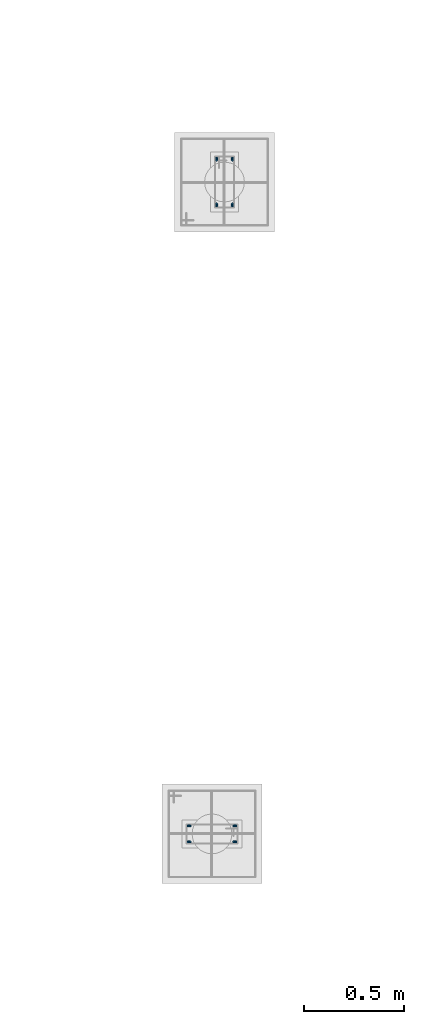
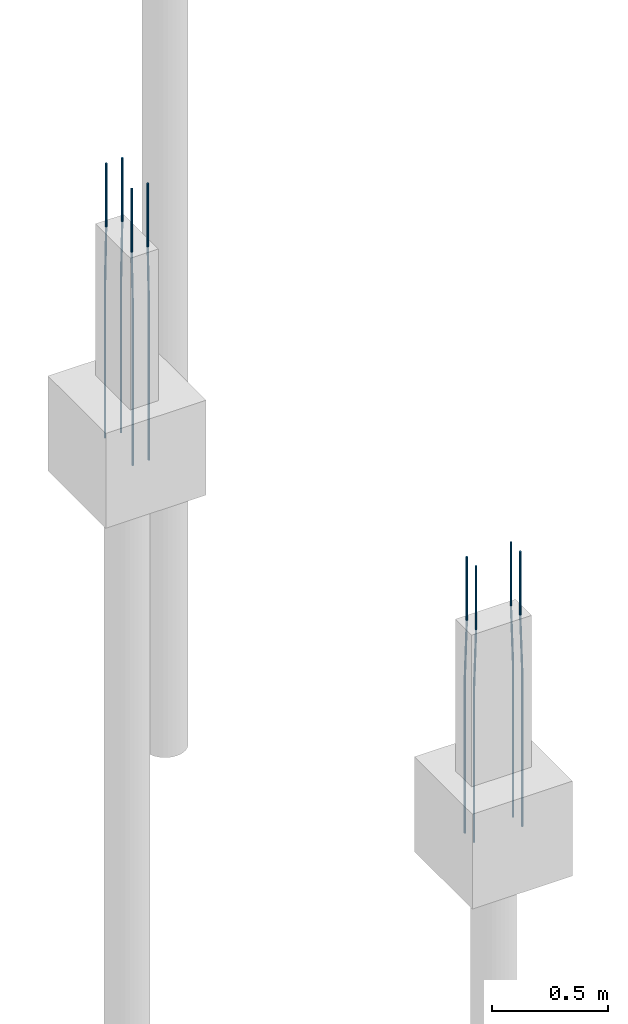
# One storey, part 24 of 119: 8 reinforcing bars.
"""IFC4 building model written with IfcOpenShell, lengths in centimetres."""

from ifc_helpers import new_model, entity, si_unit, derived_unit, frame, origin_with_axes, place, context, project, spatial, element, save


model = new_model("IFC4")

# Units and contexts
model_context = context("Model", 3, precision=1e-05, world=origin_with_axes(), identifier="Body")
ifc_project = project(units=[si_unit("LENGTHUNIT", "METRE", prefix="CENTI"), si_unit("VOLUMEUNIT", "CUBIC_METRE"), si_unit("AREAUNIT", "SQUARE_METRE"), si_unit("POWERUNIT", "WATT"), si_unit("LUMINOUSFLUXUNIT", "LUMEN"), si_unit("ELECTRICCURRENTUNIT", "AMPERE"), si_unit("PRESSUREUNIT", "PASCAL", prefix="KILO"), si_unit("MASSUNIT", "GRAM", prefix="KILO"), si_unit("PLANEANGLEUNIT", "RADIAN"), derived_unit("VOLUMETRICFLOWRATEUNIT", [(si_unit("LENGTHUNIT", "METRE"), 3), (si_unit("TIMEUNIT", "SECOND"), -1)])], contexts=[model_context])

# Site, building, storey
site_placement = place(None, frame((-4000.0, 0.0, 0.0), z_axis=(0.0, 0.0, 1.0), x_axis=(1.0, 0.0, 0.0)))
site = spatial("IfcSite", under=ifc_project, at=site_placement, Name="PADRÃO")
building_placement = place(site_placement, frame((0.0, 0.0, -14.0)))
building = spatial("IfcBuilding", under=site, at=building_placement, Name="CRECHE PRÉ-ESCOLA TIPO 2")
storey_placement = place(building_placement, origin_with_axes())
storey = spatial("IfcBuildingStorey", under=building, at=storey_placement, Name="FUNDAÇÃO", CompositionType="ELEMENT", Elevation=-14.0)

# Reinforcing bars
for number, where, z_axis, x_axis, name in (
    (1, (1112.0, 2261.5, 33.3573001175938), (0.0, 0.0, 1.0), (1.0, 0.0, 0.0), "P79 - Longitudinal"),
    (2, (1120.0, 2261.5, 33.3573001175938), (0.0, 0.0, 1.0), (1.0, 0.0, 0.0), "P79 - Longitudinal"),
):
    element("IfcReinforcingBar", number, at=place(storey_placement, frame(where, z_axis=z_axis, x_axis=x_axis)), inside=storey, Name=name, BarLength=0.0, CrossSectionArea=7.853981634e-05, NominalDiameter=1.0, PredefinedType="MAIN", context=model_context, shape_type="AdvancedSweptSolid", body=[
        entity("IfcSweptDiskSolid", entity("IfcCompositeCurve", [entity("IfcCompositeCurveSegment", "CONTINUOUS", True, entity("IfcPolyline", [entity("IfcCartesianPoint", [0.0, 0.5, -145.357300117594]), entity("IfcCartesianPoint", [0.0, 0.5, -63.3573001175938])])), entity("IfcCompositeCurveSegment", "CONTINUOUS", True, entity("IfcPolyline", [entity("IfcCartesianPoint", [0.0, 0.5, -63.3573001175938]), entity("IfcCartesianPoint", [0.0, -0.5, -33.3573001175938])])), entity("IfcCompositeCurveSegment", "CONTINUOUS", True, entity("IfcPolyline", [entity("IfcCartesianPoint", [0.0, -0.5, -33.3573001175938]), entity("IfcCartesianPoint", [0.0, -0.5, 0.0])]))], False), 0.5),
    ])
for number, where, z_axis, x_axis, name in (
    (3, (1120.0, 2238.5, 33.3573001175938), (0.0, 0.0, 1.0), (1.0, 0.0, 0.0), "P79 - Longitudinal"),
    (4, (1112.0, 2238.5, 33.3573001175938), (0.0, 0.0, 1.0), (1.0, 0.0, 0.0), "P79 - Longitudinal"),
):
    element("IfcReinforcingBar", number, at=place(storey_placement, frame(where, z_axis=z_axis, x_axis=x_axis)), inside=storey, Name=name, BarLength=0.0, CrossSectionArea=7.853981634e-05, NominalDiameter=1.0, PredefinedType="MAIN", context=model_context, shape_type="AdvancedSweptSolid", body=[
        entity("IfcSweptDiskSolid", entity("IfcCompositeCurve", [entity("IfcCompositeCurveSegment", "CONTINUOUS", True, entity("IfcPolyline", [entity("IfcCartesianPoint", [0.0, -0.5, -145.357300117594]), entity("IfcCartesianPoint", [0.0, -0.5, -63.3573001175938])])), entity("IfcCompositeCurveSegment", "CONTINUOUS", True, entity("IfcPolyline", [entity("IfcCartesianPoint", [0.0, -0.5, -63.3573001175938]), entity("IfcCartesianPoint", [0.0, 0.5, -33.3573001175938])])), entity("IfcCompositeCurveSegment", "CONTINUOUS", True, entity("IfcPolyline", [entity("IfcCartesianPoint", [0.0, 0.5, -33.3573001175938]), entity("IfcCartesianPoint", [0.0, 0.5, 0.0])]))], False), 0.5),
    ])
for number, where, z_axis, x_axis, name in (
    (5, (1098.22, 1918.5, 33.3573001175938), (0.0, 0.0, 1.0), (1.0, 0.0, 0.0), "P87 - Longitudinal"),
    (6, (1098.22, 1926.5, 33.3573001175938), (0.0, 0.0, 1.0), (1.0, 0.0, 0.0), "P87 - Longitudinal"),
):
    element("IfcReinforcingBar", number, at=place(storey_placement, frame(where, z_axis=z_axis, x_axis=x_axis)), inside=storey, Name=name, BarLength=0.0, CrossSectionArea=7.853981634e-05, NominalDiameter=1.0, PredefinedType="MAIN", context=model_context, shape_type="AdvancedSweptSolid", body=[
        entity("IfcSweptDiskSolid", entity("IfcCompositeCurve", [entity("IfcCompositeCurveSegment", "CONTINUOUS", True, entity("IfcPolyline", [entity("IfcCartesianPoint", [-0.5, 0.0, -145.357300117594]), entity("IfcCartesianPoint", [-0.5, 0.0, -63.3573001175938])])), entity("IfcCompositeCurveSegment", "CONTINUOUS", True, entity("IfcPolyline", [entity("IfcCartesianPoint", [-0.5, 0.0, -63.3573001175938]), entity("IfcCartesianPoint", [0.5, 0.0, -33.3573001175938])])), entity("IfcCompositeCurveSegment", "CONTINUOUS", True, entity("IfcPolyline", [entity("IfcCartesianPoint", [0.5, 0.0, -33.3573001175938]), entity("IfcCartesianPoint", [0.5, 0.0, 0.0])]))], False), 0.5),
    ])
for number, where, z_axis, x_axis, name in (
    (7, (1121.22, 1926.5, 33.3573001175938), (0.0, 0.0, 1.0), (1.0, 0.0, 0.0), "P87 - Longitudinal"),
    (8, (1121.22, 1918.5, 33.3573001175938), (0.0, 0.0, 1.0), (1.0, 0.0, 0.0), "P87 - Longitudinal"),
):
    element("IfcReinforcingBar", number, at=place(storey_placement, frame(where, z_axis=z_axis, x_axis=x_axis)), inside=storey, Name=name, BarLength=0.0, CrossSectionArea=7.853981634e-05, NominalDiameter=1.0, PredefinedType="MAIN", context=model_context, shape_type="AdvancedSweptSolid", body=[
        entity("IfcSweptDiskSolid", entity("IfcCompositeCurve", [entity("IfcCompositeCurveSegment", "CONTINUOUS", True, entity("IfcPolyline", [entity("IfcCartesianPoint", [0.5, 0.0, -145.357300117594]), entity("IfcCartesianPoint", [0.5, 0.0, -63.3573001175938])])), entity("IfcCompositeCurveSegment", "CONTINUOUS", True, entity("IfcPolyline", [entity("IfcCartesianPoint", [0.5, 0.0, -63.3573001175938]), entity("IfcCartesianPoint", [-0.5, 0.0, -33.3573001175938])])), entity("IfcCompositeCurveSegment", "CONTINUOUS", True, entity("IfcPolyline", [entity("IfcCartesianPoint", [-0.5, 0.0, -33.3573001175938]), entity("IfcCartesianPoint", [-0.5, 0.0, 0.0])]))], False), 0.5),
    ])

save(model, "model.ifc")
